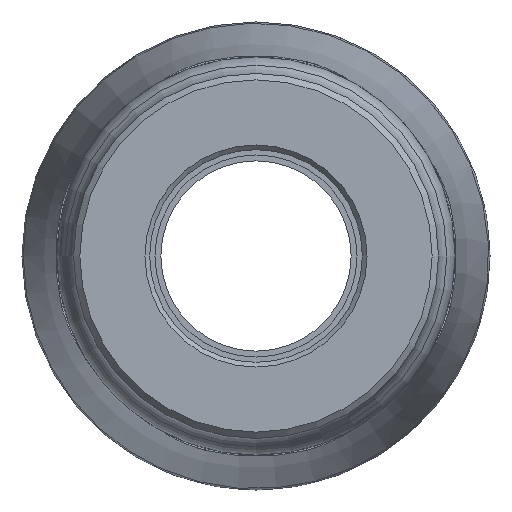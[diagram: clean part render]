
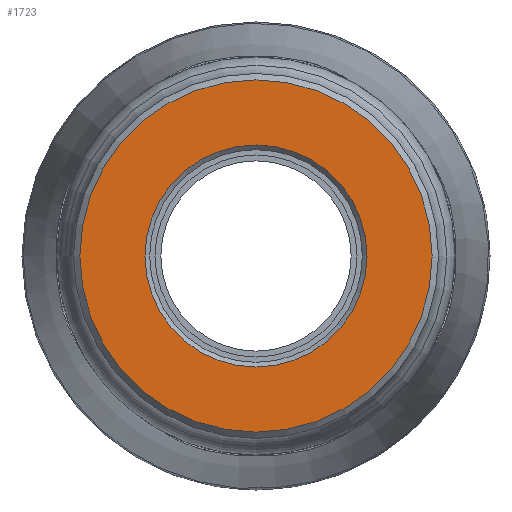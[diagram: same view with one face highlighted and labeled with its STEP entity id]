
A CAD part, left-side view. The second image highlights one B-rep face of the part: STEP entity #1723.
In plain terms, the highlighted planar face has unit normal (-1, 0, 0).
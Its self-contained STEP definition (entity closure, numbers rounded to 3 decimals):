
#28=FACE_BOUND('',#400,.T.);
#211=PLANE('',#1880);
#289=FACE_OUTER_BOUND('',#399,.T.);
#399=EDGE_LOOP('',(#1218));
#400=EDGE_LOOP('',(#1219));
#541=CIRCLE('',#1879,9.726);
#542=CIRCLE('',#1881,15.431);
#727=VERTEX_POINT('',#2966);
#728=VERTEX_POINT('',#2969);
#909=EDGE_CURVE('',#727,#727,#541,.T.);
#910=EDGE_CURVE('',#728,#728,#542,.T.);
#1218=ORIENTED_EDGE('',*,*,#910,.F.);
#1219=ORIENTED_EDGE('',*,*,#909,.F.);
#1723=ADVANCED_FACE('',(#289,#28),#211,.T.);
#1879=AXIS2_PLACEMENT_3D('',#2967,#2171,#2172);
#1880=AXIS2_PLACEMENT_3D('',#2968,#2173,#2174);
#1881=AXIS2_PLACEMENT_3D('',#2970,#2175,#2176);
#2171=DIRECTION('center_axis',(-1.,0.,0.));
#2172=DIRECTION('ref_axis',(0.,-1.,0.));
#2173=DIRECTION('center_axis',(-1.,0.,0.));
#2174=DIRECTION('ref_axis',(0.,0.,1.));
#2175=DIRECTION('center_axis',(1.,0.,0.));
#2176=DIRECTION('ref_axis',(0.,-1.,0.));
#2966=CARTESIAN_POINT('',(0.,9.726,0.));
#2967=CARTESIAN_POINT('Origin',(0.,0.,0.));
#2968=CARTESIAN_POINT('Origin',(0.,15.99,0.));
#2969=CARTESIAN_POINT('',(0.,15.431,0.));
#2970=CARTESIAN_POINT('Origin',(0.,0.,0.));
